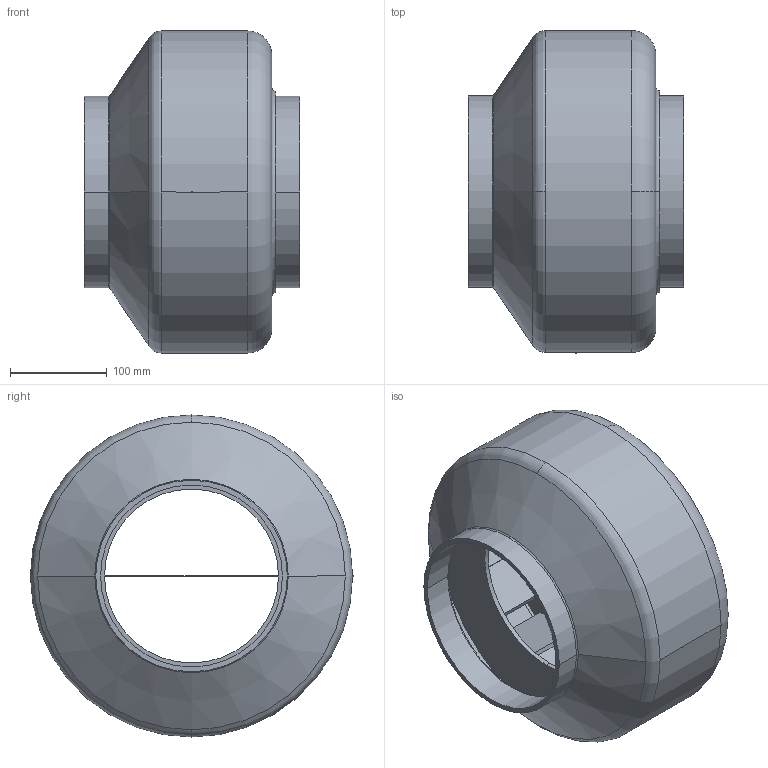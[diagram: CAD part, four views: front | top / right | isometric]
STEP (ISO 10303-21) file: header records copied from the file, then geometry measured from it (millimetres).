
FILE_DESCRIPTION(('STEP AP214'),'1');
FILE_NAME('5145880400.stp','2019-05-13T14:54:53',('TraceParts'),('TraceParts S.A.'),'Spatial InterOp 3D',' ',' ');
FILE_SCHEMA(('AUTOMOTIVE_DESIGN { 1 0 10303 214 1 1 1 1 }'));
Length unit declared in the file: millimetre
Products named in the file (1): 5145880400
Bounding box: 223 x 334 x 333 mm (x, y, z)
Volume: 2349905.2 mm3; surface area: 886555.9 mm2
Topology: 1 solids, 1 shells, 107 faces, 298 edges, 199 vertices
Faces by surface type: plane 59, cylinder 28, torus 16, cone 4
Entity records: 4717 total; most frequent: CARTESIAN_POINT 934, DIRECTION 615, ORIENTED_EDGE 596, EDGE_CURVE 298, AXIS2_PLACEMENT_3D 218, VERTEX_POINT 199, LINE 179, VECTOR 179
